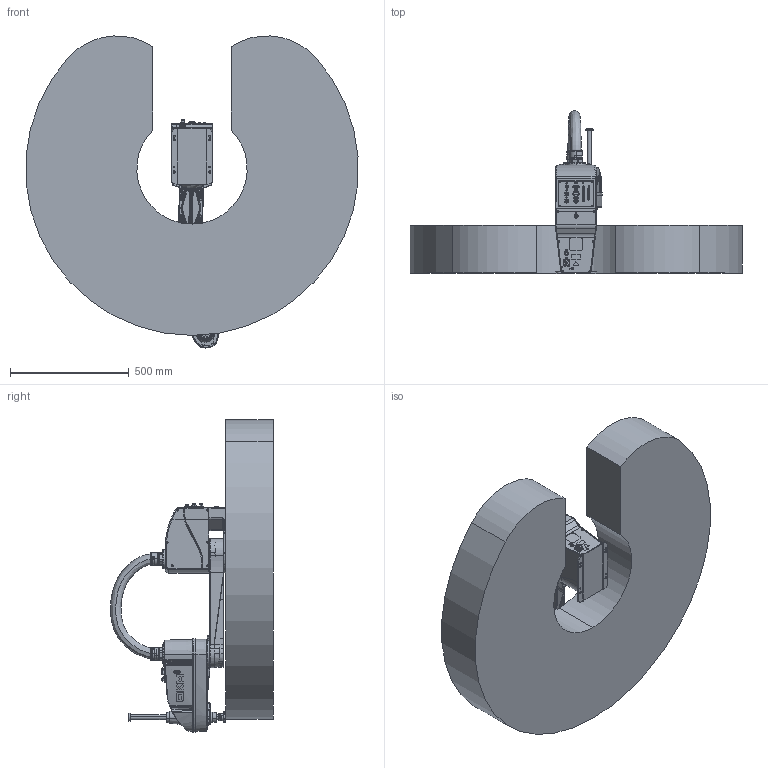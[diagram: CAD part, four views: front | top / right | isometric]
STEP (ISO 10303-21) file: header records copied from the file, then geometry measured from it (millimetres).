
FILE_DESCRIPTION (( 'STEP AP214' ), '1' );
FILE_NAME ('AH6-0700-0204-2000-T0-2.0.0.STEP', '2020-04-23T08:51:01', ( '' ), ( '' ), 'SwSTEP 2.0', 'SolidWorks 2017', '' );
FILE_SCHEMA (( 'AUTOMOTIVE_DESIGN' ));
Length unit declared in the file: millimetre
Products named in the file (7): AH6-0700-0204-2000-T6-2.0.0; AH6-0700-0204-2000-T4-2.0.0; AH6-0700-0204-2000-T1-2.0.0; AH6-0700-0204-2000-T2-2.0.0; AH6-0700-0204-2000-T5-2.0.0; AH6-0700-0204-2000-T3-2.0.0; AH6-0700-0204-2000-T0-2.0.0
Assembly tree (6 placements, depth 2):
  AH6-0700-0204-2000-T0-2.0.0
    AH6-0700-0204-2000-T3-2.0.0
    AH6-0700-0204-2000-T5-2.0.0
    AH6-0700-0204-2000-T2-2.0.0
    AH6-0700-0204-2000-T1-2.0.0
    AH6-0700-0204-2000-T4-2.0.0
    AH6-0700-0204-2000-T6-2.0.0
Bounding box: 1396.09 x 686.18 x 1312.35 mm (x, y, z)
Volume: 258359715.3 mm3; surface area: 4794419.4 mm2
Topology: 6 solids, 7 shells, 6629 faces, 17213 edges, 11008 vertices
Faces by surface type: plane 3051, bspline 1908, cylinder 1122, cone 499, torus 37, sphere 12
Entity records: 363763 total; most frequent: CARTESIAN_POINT 174436, ORIENTED_EDGE 34174, DIRECTION 24307, EDGE_CURVE 17087, VERTEX_POINT 10987, VECTOR 8683, LINE 8683, AXIS2_PLACEMENT_3D 7812
